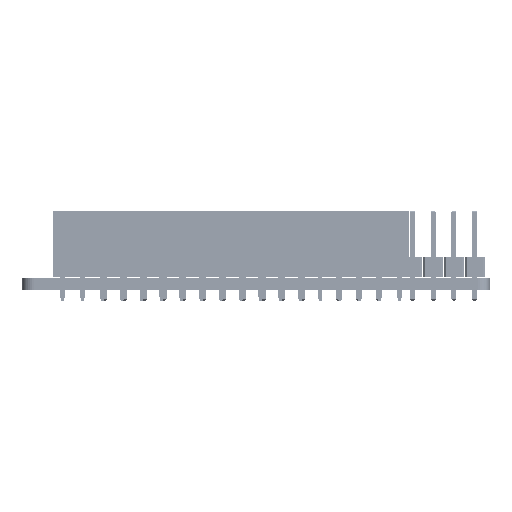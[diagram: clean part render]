
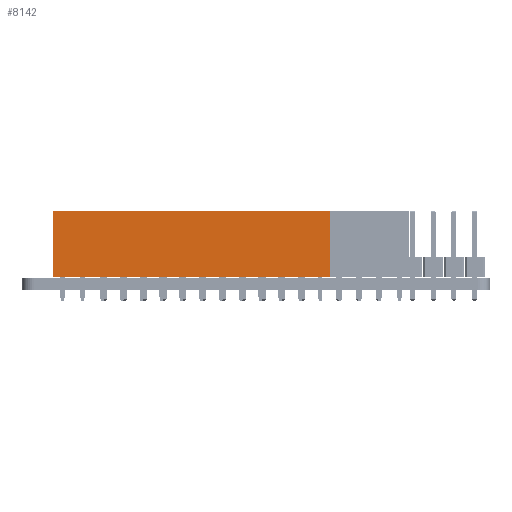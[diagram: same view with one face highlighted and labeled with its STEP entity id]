
A CAD part, left-side view. The second image highlights one B-rep face of the part: STEP entity #8142.
In plain terms, the highlighted planar face has unit normal (-1, 0, 0).
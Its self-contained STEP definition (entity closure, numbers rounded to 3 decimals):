
#6519 = VERTEX_POINT('',#6520);
#6520 = CARTESIAN_POINT('',(-1.27,-34.29,0.));
#6528 = EDGE_CURVE('',#6519,#6529,#6531,.T.);
#6529 = VERTEX_POINT('',#6530);
#6530 = CARTESIAN_POINT('',(-1.27,-34.29,8.5));
#6531 = LINE('',#6532,#6533);
#6532 = CARTESIAN_POINT('',(-1.27,-34.29,0.));
#6533 = VECTOR('',#6534,1.);
#6534 = DIRECTION('',(0.,0.,1.));
#6591 = VERTEX_POINT('',#6592);
#6592 = CARTESIAN_POINT('',(-1.27,1.27,8.5));
#6598 = EDGE_CURVE('',#6599,#6591,#6601,.T.);
#6599 = VERTEX_POINT('',#6600);
#6600 = CARTESIAN_POINT('',(-1.27,1.27,0.));
#6601 = LINE('',#6602,#6603);
#6602 = CARTESIAN_POINT('',(-1.27,1.27,0.));
#6603 = VECTOR('',#6604,1.);
#6604 = DIRECTION('',(0.,0.,1.));
#6663 = EDGE_CURVE('',#6591,#6529,#6664,.T.);
#6664 = LINE('',#6665,#6666);
#6665 = CARTESIAN_POINT('',(-1.27,1.27,8.5));
#6666 = VECTOR('',#6667,1.);
#6667 = DIRECTION('',(0.,-1.,0.));
#7162 = EDGE_CURVE('',#6599,#6519,#7163,.T.);
#7163 = LINE('',#7164,#7165);
#7164 = CARTESIAN_POINT('',(-1.27,1.27,0.));
#7165 = VECTOR('',#7166,1.);
#7166 = DIRECTION('',(0.,-1.,0.));
#8142 = ADVANCED_FACE('',(#8143),#8149,.F.);
#8143 = FACE_BOUND('',#8144,.F.);
#8144 = EDGE_LOOP('',(#8145,#8146,#8147,#8148));
#8145 = ORIENTED_EDGE('',*,*,#6598,.T.);
#8146 = ORIENTED_EDGE('',*,*,#6663,.T.);
#8147 = ORIENTED_EDGE('',*,*,#6528,.F.);
#8148 = ORIENTED_EDGE('',*,*,#7162,.F.);
#8149 = PLANE('',#8150);
#8150 = AXIS2_PLACEMENT_3D('',#8151,#8152,#8153);
#8151 = CARTESIAN_POINT('',(-1.27,1.27,0.));
#8152 = DIRECTION('',(1.,0.,0.));
#8153 = DIRECTION('',(0.,-1.,0.));
